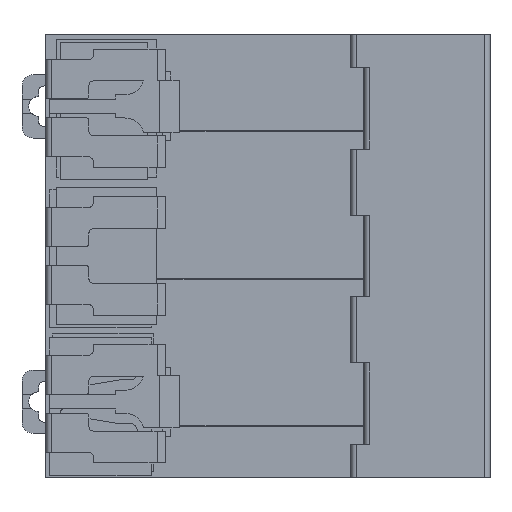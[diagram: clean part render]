
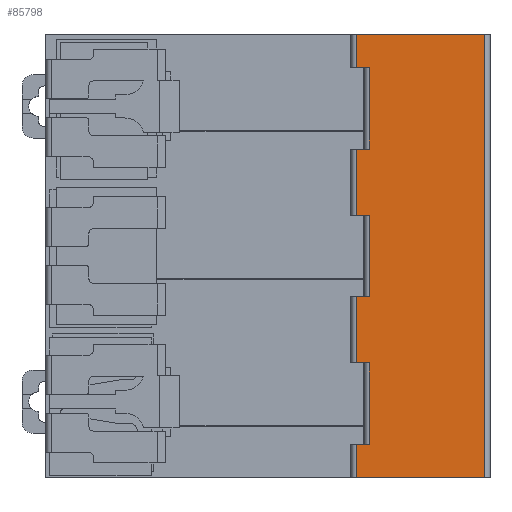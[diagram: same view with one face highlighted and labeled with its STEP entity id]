
A CAD part, front view. The second image highlights one B-rep face of the part: STEP entity #85798.
In plain terms, the highlighted planar face has unit normal (0, -1, 0).
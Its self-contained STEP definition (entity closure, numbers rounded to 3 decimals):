
#720=DIRECTION('',(0.,0.,1.));
#721=VECTOR('',#720,80.4);
#722=CARTESIAN_POINT('',(33.4,-58.5,-13.4));
#723=LINE('',#722,#721);
#728=DIRECTION('',(-1.,0.,0.));
#729=VECTOR('',#728,2.4);
#730=CARTESIAN_POINT('',(12.5,-58.5,61.));
#731=LINE('',#730,#729);
#732=DIRECTION('',(1.,0.,0.));
#733=VECTOR('',#732,2.4);
#734=CARTESIAN_POINT('',(10.1,-58.5,-7.4));
#735=LINE('',#734,#733);
#736=DIRECTION('',(-1.,0.,0.));
#737=VECTOR('',#736,2.4);
#738=CARTESIAN_POINT('',(12.5,-58.5,7.4));
#739=LINE('',#738,#737);
#740=DIRECTION('',(1.,0.,0.));
#741=VECTOR('',#740,2.4);
#742=CARTESIAN_POINT('',(10.1,-58.5,19.4));
#743=LINE('',#742,#741);
#744=DIRECTION('',(-1.,0.,0.));
#745=VECTOR('',#744,2.4);
#746=CARTESIAN_POINT('',(12.5,-58.5,34.2));
#747=LINE('',#746,#745);
#748=DIRECTION('',(1.,0.,0.));
#749=VECTOR('',#748,2.4);
#750=CARTESIAN_POINT('',(10.1,-58.5,46.2));
#751=LINE('',#750,#749);
#752=DIRECTION('',(0.,0.,-1.));
#753=VECTOR('',#752,14.8);
#754=CARTESIAN_POINT('',(12.5,-58.5,61.));
#755=LINE('',#754,#753);
#1333=DIRECTION('',(1.,0.,0.));
#1334=VECTOR('',#1333,23.3);
#1335=CARTESIAN_POINT('',(10.1,-58.5,-13.4));
#1336=LINE('',#1335,#1334);
#7223=DIRECTION('',(-1.,0.,0.));
#7224=VECTOR('',#7223,23.3);
#7225=CARTESIAN_POINT('',(33.4,-58.5,67.));
#7226=LINE('',#7225,#7224);
#7296=DIRECTION('',(0.,0.,-1.));
#7297=VECTOR('',#7296,6.);
#7298=CARTESIAN_POINT('',(10.1,-58.5,67.));
#7299=LINE('',#7298,#7297);
#66049=DIRECTION('',(0.,0.,-1.));
#66050=VECTOR('',#66049,14.8);
#66051=CARTESIAN_POINT('',(12.5,-58.5,7.4));
#66052=LINE('',#66051,#66050);
#66089=DIRECTION('',(0.,0.,-1.));
#66090=VECTOR('',#66089,14.8);
#66091=CARTESIAN_POINT('',(12.5,-58.5,34.2));
#66092=LINE('',#66091,#66090);
#66129=DIRECTION('',(0.,0.,-1.));
#66130=VECTOR('',#66129,12.);
#66131=CARTESIAN_POINT('',(10.1,-58.5,46.2));
#66132=LINE('',#66131,#66130);
#66149=DIRECTION('',(0.,0.,-1.));
#66150=VECTOR('',#66149,12.);
#66151=CARTESIAN_POINT('',(10.1,-58.5,19.4));
#66152=LINE('',#66151,#66150);
#66169=DIRECTION('',(0.,0.,-1.));
#66170=VECTOR('',#66169,6.);
#66171=CARTESIAN_POINT('',(10.1,-58.5,-7.4));
#66172=LINE('',#66171,#66170);
#66313=CARTESIAN_POINT('',(10.1,-58.5,-13.4));
#66314=VERTEX_POINT('',#66313);
#66315=CARTESIAN_POINT('',(33.4,-58.5,-13.4));
#66316=VERTEX_POINT('',#66315);
#67033=CARTESIAN_POINT('',(12.5,-58.5,-7.4));
#67034=VERTEX_POINT('',#67033);
#67035=CARTESIAN_POINT('',(10.1,-58.5,-7.4));
#67036=VERTEX_POINT('',#67035);
#71434=CARTESIAN_POINT('',(12.5,-58.5,7.4));
#71435=CARTESIAN_POINT('',(10.1,-58.5,7.4));
#71436=VERTEX_POINT('',#71434);
#71437=VERTEX_POINT('',#71435);
#72588=CARTESIAN_POINT('',(10.1,-58.5,19.4));
#72589=CARTESIAN_POINT('',(12.5,-58.5,19.4));
#72590=VERTEX_POINT('',#72588);
#72591=VERTEX_POINT('',#72589);
#75767=CARTESIAN_POINT('',(12.5,-58.5,34.2));
#75768=CARTESIAN_POINT('',(10.1,-58.5,34.2));
#75769=VERTEX_POINT('',#75767);
#75770=VERTEX_POINT('',#75768);
#77043=CARTESIAN_POINT('',(10.1,-58.5,46.2));
#77044=CARTESIAN_POINT('',(12.5,-58.5,46.2));
#77045=VERTEX_POINT('',#77043);
#77046=VERTEX_POINT('',#77044);
#79747=CARTESIAN_POINT('',(33.4,-58.5,67.));
#79748=VERTEX_POINT('',#79747);
#79749=CARTESIAN_POINT('',(10.1,-58.5,67.));
#79750=VERTEX_POINT('',#79749);
#80580=CARTESIAN_POINT('',(12.5,-58.5,61.));
#80581=CARTESIAN_POINT('',(10.1,-58.5,61.));
#80582=VERTEX_POINT('',#80580);
#80583=VERTEX_POINT('',#80581);
#85760=CARTESIAN_POINT('',(11.5,-58.5,0.));
#85761=DIRECTION('',(0.,-1.,0.));
#85762=DIRECTION('',(1.,0.,0.));
#85763=AXIS2_PLACEMENT_3D('',#85760,#85761,#85762);
#85764=PLANE('',#85763);
#85766=ORIENTED_EDGE('',*,*,#85765,.F.);
#85768=ORIENTED_EDGE('',*,*,#85767,.T.);
#85770=ORIENTED_EDGE('',*,*,#85769,.F.);
#85772=ORIENTED_EDGE('',*,*,#85771,.F.);
#85773=ORIENTED_EDGE('',*,*,#85750,.F.);
#85775=ORIENTED_EDGE('',*,*,#85774,.F.);
#85777=ORIENTED_EDGE('',*,*,#85776,.F.);
#85779=ORIENTED_EDGE('',*,*,#85778,.T.);
#85781=ORIENTED_EDGE('',*,*,#85780,.F.);
#85783=ORIENTED_EDGE('',*,*,#85782,.T.);
#85785=ORIENTED_EDGE('',*,*,#85784,.F.);
#85787=ORIENTED_EDGE('',*,*,#85786,.T.);
#85789=ORIENTED_EDGE('',*,*,#85788,.F.);
#85791=ORIENTED_EDGE('',*,*,#85790,.T.);
#85793=ORIENTED_EDGE('',*,*,#85792,.F.);
#85795=ORIENTED_EDGE('',*,*,#85794,.T.);
#85796=EDGE_LOOP('',(#85766,#85768,#85770,#85772,#85773,#85775,#85777,#85779,
#85781,#85783,#85785,#85787,#85789,#85791,#85793,#85795));
#85797=FACE_OUTER_BOUND('',#85796,.F.);
#85798=ADVANCED_FACE('',(#85797),#85764,.T.);
#85750=EDGE_CURVE('',#66316,#79748,#723,.T.);
#85765=EDGE_CURVE('',#80582,#77046,#755,.T.);
#85767=EDGE_CURVE('',#80582,#80583,#731,.T.);
#85769=EDGE_CURVE('',#79750,#80583,#7299,.T.);
#85771=EDGE_CURVE('',#79748,#79750,#7226,.T.);
#85774=EDGE_CURVE('',#66314,#66316,#1336,.T.);
#85776=EDGE_CURVE('',#67036,#66314,#66172,.T.);
#85778=EDGE_CURVE('',#67036,#67034,#735,.T.);
#85780=EDGE_CURVE('',#71436,#67034,#66052,.T.);
#85782=EDGE_CURVE('',#71436,#71437,#739,.T.);
#85784=EDGE_CURVE('',#72590,#71437,#66152,.T.);
#85786=EDGE_CURVE('',#72590,#72591,#743,.T.);
#85788=EDGE_CURVE('',#75769,#72591,#66092,.T.);
#85790=EDGE_CURVE('',#75769,#75770,#747,.T.);
#85792=EDGE_CURVE('',#77045,#75770,#66132,.T.);
#85794=EDGE_CURVE('',#77045,#77046,#751,.T.);
